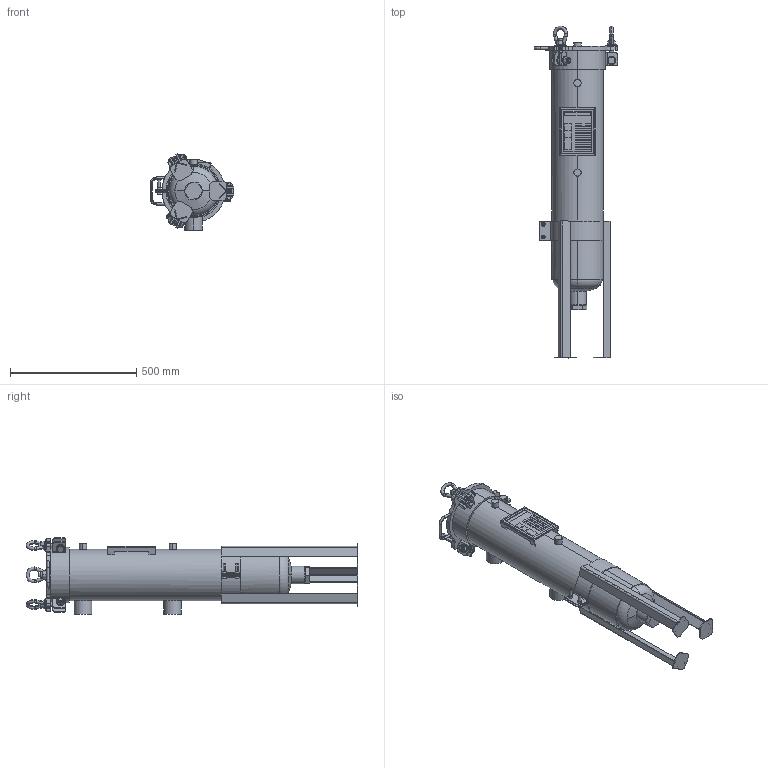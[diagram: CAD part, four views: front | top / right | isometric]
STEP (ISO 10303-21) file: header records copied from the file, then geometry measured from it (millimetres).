
FILE_DESCRIPTION (( 'STEP AP203' ), '1' );
FILE_NAME ('002001-20107.step', '2025-12-09T14:43:26', ( '' ), ( '' ), 'SwSTEP 2.0', 'SolidWorks 2023', '' );
FILE_SCHEMA (( 'CONFIG_CONTROL_DESIGN' ));
Length unit declared in the file: inch
Products named in the file (1): 002001-20107
Bounding box: 332.84 x 1316.27 x 303.15 mm (x, y, z)
Volume: 33590006.2 mm3; surface area: 1351647.2 mm2
Topology: 10 solids, 10 shells, 774 faces, 1859 edges, 1155 vertices
Faces by surface type: plane 310, cylinder 223, cone 135, torus 53, bspline 51, sphere 2
Entity records: 26012 total; most frequent: CARTESIAN_POINT 8198, DIRECTION 3735, ORIENTED_EDGE 3694, EDGE_CURVE 1847, AXIS2_PLACEMENT_3D 1480, VERTEX_POINT 1155, EDGE_LOOP 854, VECTOR 775
